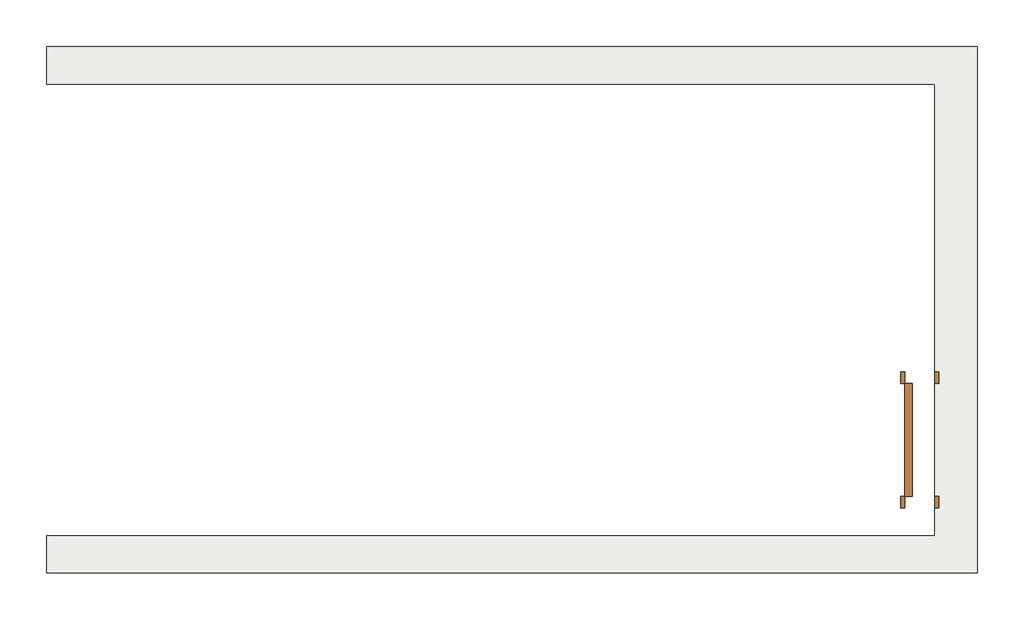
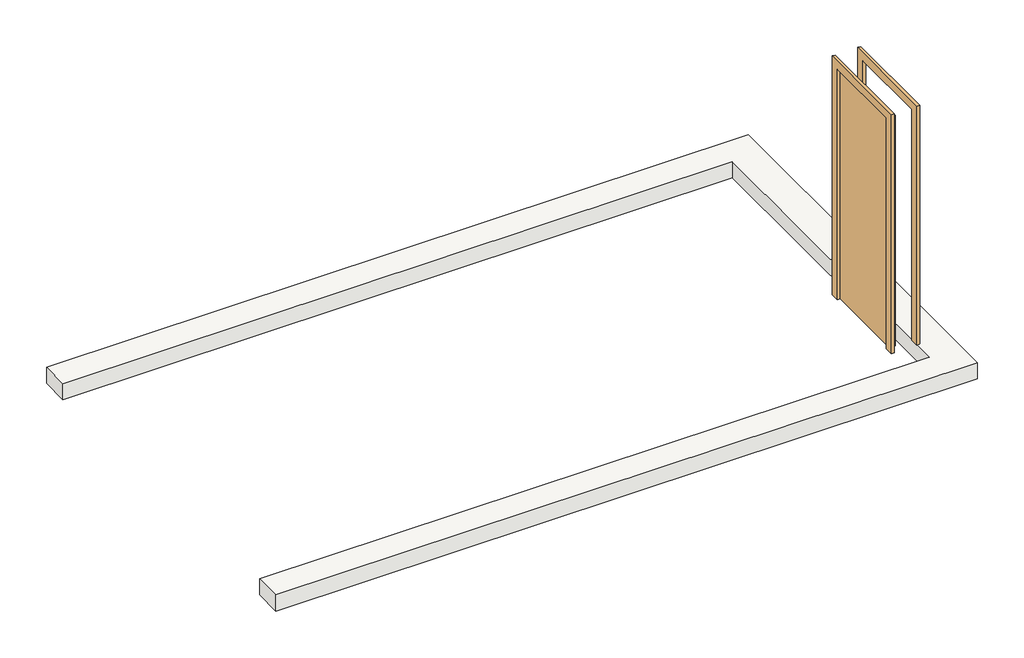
# One storey: 1 door, 1 slab.
"""IFC4 building model written with IfcOpenShell, lengths in millimetres."""

from ifc_helpers import new_model, si_unit, frame, origin, place, context, project, spatial, polyline, outline, extrude, transform, mapped, element, save
from components import m_580c2f92

model = new_model("IFC4")

# Units and contexts
model_context = context("Model", 3, world=origin())
ifc_project = project(units=[si_unit("LENGTHUNIT", "METRE", prefix="MILLI")], contexts=[model_context])

# Site, building, storey
site = spatial("IfcSite", under=ifc_project)
building = spatial("IfcBuilding", under=site)
storey = spatial("IfcBuildingStorey", under=building, Name="标高 2", Elevation=2850.0)

# Door
placement = place(None, origin())
m_shape = m_580c2f92(model_context)
element("IfcDoor", 1, ObjectType="单扇 - 与墙齐 : M", at=placement, inside=storey, context=model_context, shape_type="MappedRepresentation", body=[
    mapped(m_shape, transform((7309.1227165, -1858.3269479, 2850.0), x_axis=(0.0, -1.0, 0.0), y_axis=(1.0, 0.0, 0.0), z_axis=(0.0, 0.0, 1.0))),
])

# Slab
element("IfcSlab", 2, ObjectType="常规 - 150mm", at=placement, inside=storey, context=model_context, shape_type="SweptSolid", body=[
    extrude(outline(polyline([(7692.3784101, 757.8406531), (7692.3784101, -2742.1593469), (1509.1227165, -2742.1593469), (1509.1227165, -2493.3269479), (7409.1227165, -2493.3269479), (7409.1227165, 506.6730521), (1509.1227165, 506.6730521), (1509.1227165, 757.8406531), (7692.3784101, 757.8406531)])), frame((0.0, 0.0, 2700.0), z_axis=(0.0, 0.0, 1.0), x_axis=(1.0, 0.0, 0.0)), (0.0, 0.0, 1.0), 150.0),
])

save(model, "model.ifc")
